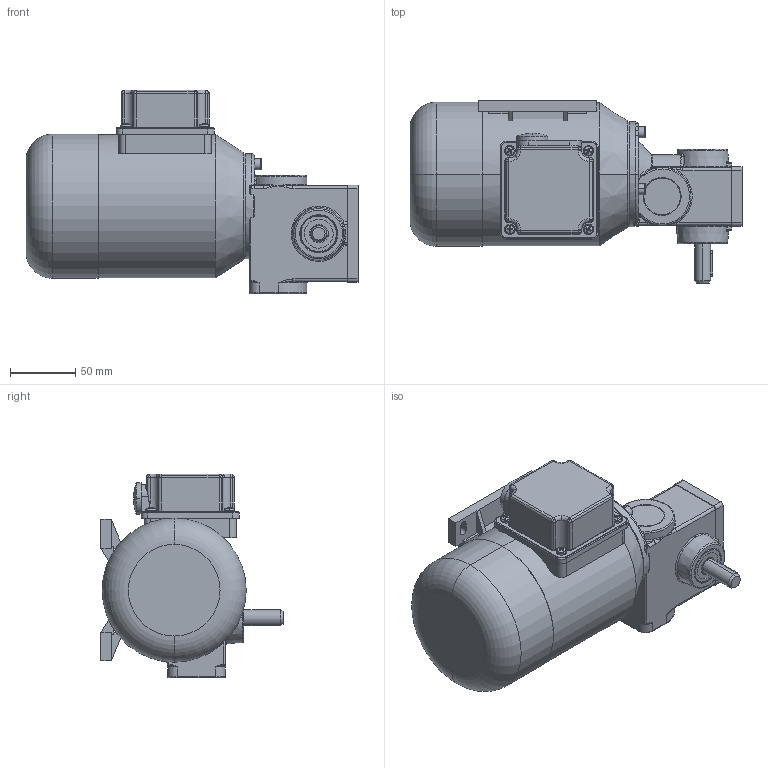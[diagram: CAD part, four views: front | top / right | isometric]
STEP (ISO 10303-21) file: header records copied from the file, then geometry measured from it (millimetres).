
FILE_DESCRIPTION (( 'STEP AP214' ), '1' );
FILE_NAME ('SN6_120W_2800Upm_Drehstrom-Motor_B.STEP', '2021-08-11T06:07:09', ( '' ), ( '' ), 'SwSTEP 2.0', 'SolidWorks 2019', '' );
FILE_SCHEMA (( 'AUTOMOTIVE_DESIGN' ));
Length unit declared in the file: millimetre
Products named in the file (12): PF_A4x4x20; K_28x9.0; socket head cap screw_iso_ISO 4762 M5 x 16 - 16C; K_28x4.0; SN6_3D_Export; 06-G-001_3D_Export; 06-M-066 I 120W_2800Upm_B3; SN6_120W_2800Upm_Drehstrom-Motor_B; NBR_WDR_12x28x7; socket head cap screw_iso_ISO 4762 M3 x 10 - 10C; 06F-D-003_3D-Export; 06-W-001_3D_Export
Assembly tree (17 placements, depth 3):
  SN6_120W_2800Upm_Drehstrom-Motor_B
    SN6_3D_Export
      06-G-001_3D_Export
      06F-D-003_3D-Export
      06-W-001_3D_Export
      PF_A4x4x20
      NBR_WDR_12x28x7
      K_28x9.0
      K_28x4.0  x2
      socket head cap screw_iso_ISO 4762 M5 x 16 - 16C  x3
      socket head cap screw_iso_ISO 4762 M3 x 10 - 10C  x4
    06-M-066 I 120W_2800Upm_B3
Bounding box: 253.5 x 139.2 x 155.7 mm (x, y, z)
Volume: 1964336.8 mm3; surface area: 181560.5 mm2
Topology: 19 solids, 19 shells, 1043 faces, 2551 edges, 1540 vertices
Faces by surface type: plane 324, cylinder 314, torus 169, cone 152, bspline 49, sphere 35
Entity records: 30202 total; most frequent: CARTESIAN_POINT 8101, DIRECTION 4803, ORIENTED_EDGE 4390, EDGE_CURVE 2195, AXIS2_PLACEMENT_3D 1984, VERTEX_POINT 1366, CIRCLE 1111, EDGE_LOOP 973
